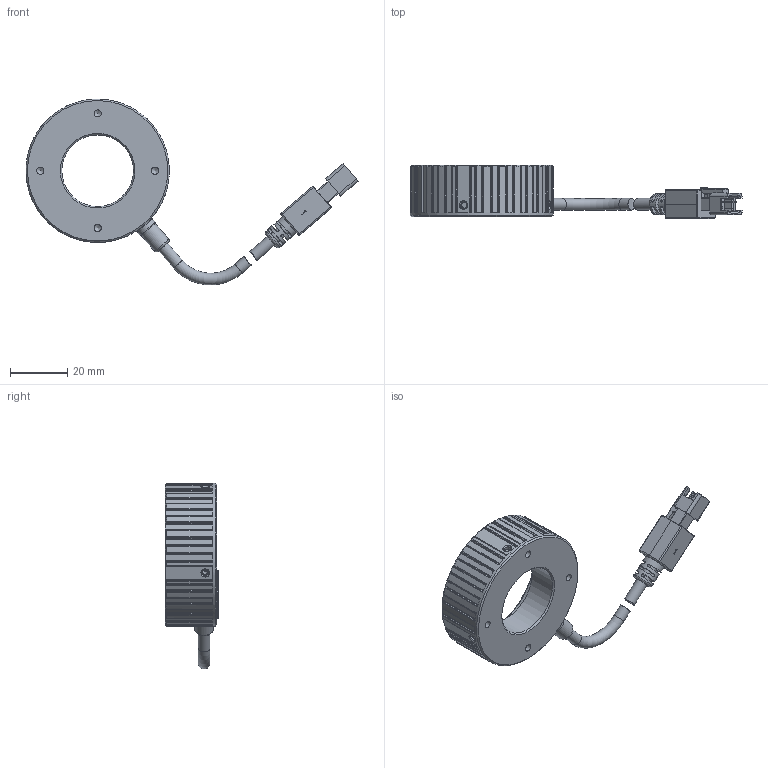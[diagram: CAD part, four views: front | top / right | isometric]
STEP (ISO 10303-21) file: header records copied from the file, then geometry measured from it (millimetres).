
FILE_DESCRIPTION (( 'STEP AP203' ), '1' );
FILE_NAME ('OPT-URI5000W-UV-V1.0尨砩芞.STEP', '2024-12-11T00:14:01', ( '' ), ( '' ), 'SwSTEP 2.0', 'SolidWorks 2016', '' );
FILE_SCHEMA (( 'CONFIG_CONTROL_DESIGN' ));
Length unit declared in the file: millimetre
Products named in the file (1): OPT-URI5000W-UV-V1.0尨砩芞
Bounding box: 115.84 x 18.75 x 64.84 mm (x, y, z)
Volume: 21818.7 mm3; surface area: 13314.5 mm2
Topology: 8 solids, 8 shells, 616 faces, 1651 edges, 1059 vertices
Faces by surface type: plane 299, cylinder 233, cone 55, bspline 21, torus 8
Full cylindrical faces by diameter (mm): 1.4 x4, 1.6 x4, 2 x4, 2.2 x4, 2.5 x4, 3.5 x1, 4.1 x4, 5.8 x1, 6.5 x1, 7 x1, 7.5 x1, 25 x1, 26.3 x1, 42.5 x1, 50 x1
Entity records: 20047 total; most frequent: CARTESIAN_POINT 5411, ORIENTED_EDGE 3108, DIRECTION 2856, EDGE_CURVE 1554, VERTEX_POINT 1033, AXIS2_PLACEMENT_3D 1020, VECTOR 816, LINE 816
